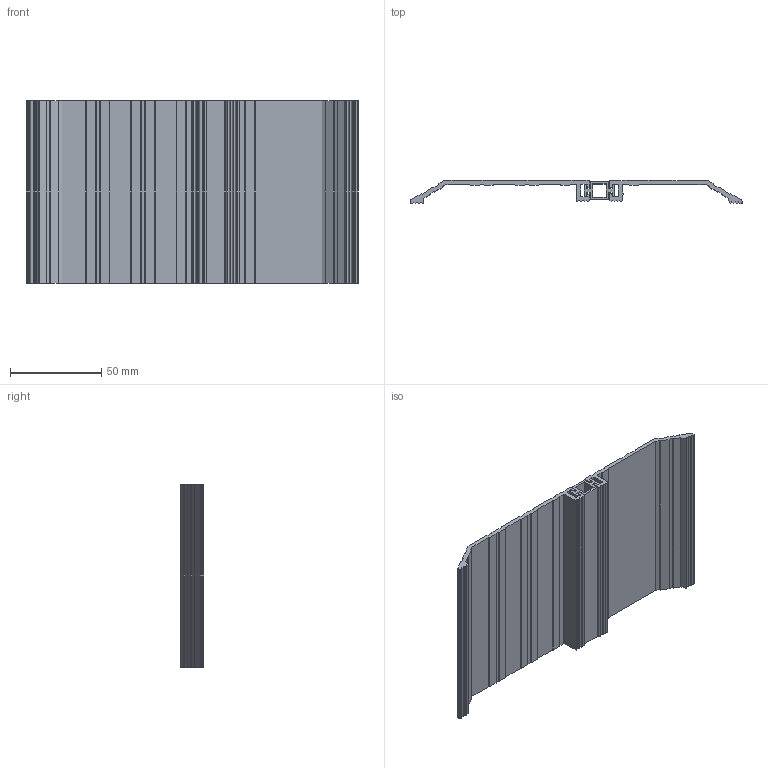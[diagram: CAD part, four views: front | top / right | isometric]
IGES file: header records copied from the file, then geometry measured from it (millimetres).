
Global section: file name: No Iges File Name specified; native system: Autodesk Inventor 2012; preprocessor: AutoDesk Inventor Iges Exporter R2012; author: anna.b; date: 20130725.115410; units: millimetre
Bounding box: 181.75 x 12.7 x 100 mm (x, y, z)
Volume: 55913.8 mm3; surface area: 55725.2 mm2
Topology: 3 solids, 3 shells, 232 faces, 678 edges, 452 vertices
Faces by surface type: plane 193, cylinder 23, revolution 16
